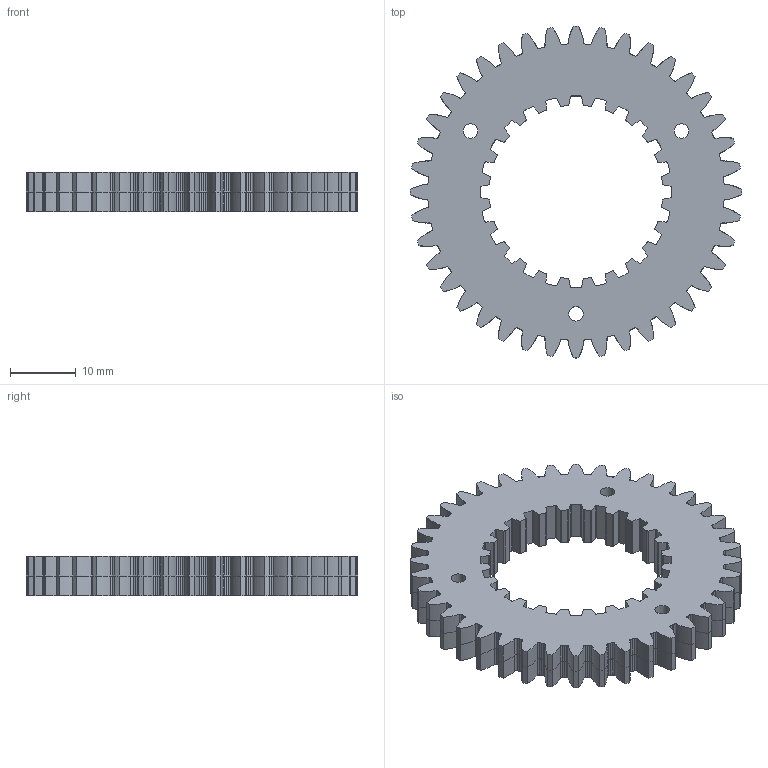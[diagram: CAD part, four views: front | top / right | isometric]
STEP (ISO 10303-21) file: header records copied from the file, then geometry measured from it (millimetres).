
FILE_DESCRIPTION(('Open CASCADE Model'),'2;1');
FILE_NAME('CM_output','2026-11-05T16:12:22',('Author'),('Open CASCADE'), 'Open CASCADE STEP processor 7.9','build123d','Unknown');
FILE_SCHEMA(('AUTOMOTIVE_DESIGN { 1 0 10303 214 1 1 1 1 }'));
Length unit declared in the file: millimetre
Products named in the file (2): CM_output
Assembly tree (1 placements, depth 2):
  CM_output
    CM_output
Bounding box: 50.4 x 50.4 x 6 mm (x, y, z)
Volume: 6960 mm3; surface area: 5058.9 mm2
Topology: 1 solids, 1 shells, 757 faces, 1985 edges, 1230 vertices
Faces by surface type: cylinder 499, extrusion 160, plane 98
Full cylindrical faces by diameter (mm): 2.2 x3
Entity records: 62866 total; most frequent: CARTESIAN_POINT 23096, DIRECTION 7519, VECTOR 4319, LINE 4159, ORIENTED_EDGE 3970, PCURVE 3970, DEFINITIONAL_REPRESENTATION 3970, EDGE_CURVE 1985
